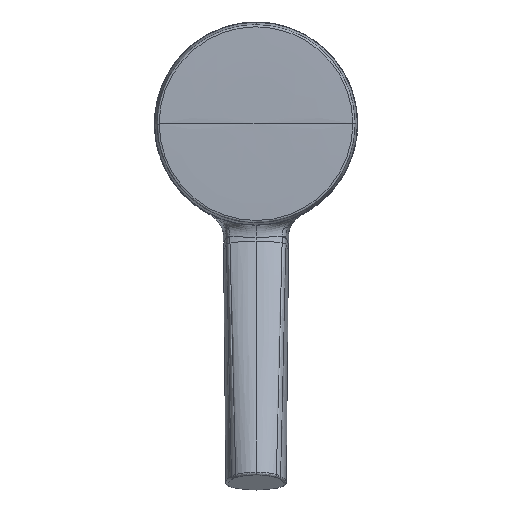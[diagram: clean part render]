
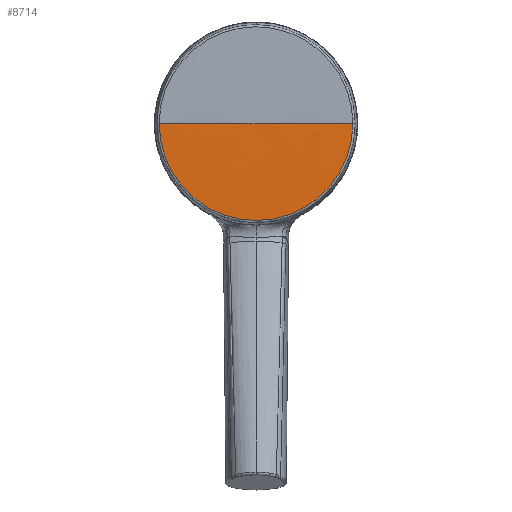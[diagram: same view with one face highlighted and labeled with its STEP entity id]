
A CAD part, top view. The second image highlights one B-rep face of the part: STEP entity #8714.
In plain terms, the highlighted free-form (B-spline) face has degree [3, 3] with [4, 4] control points.
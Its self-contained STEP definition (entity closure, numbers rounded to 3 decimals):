
#405 = CARTESIAN_POINT ( 'NONE',  ( 0., 0., 4.86 ) ) ;
#533 = CARTESIAN_POINT ( 'NONE',  ( 28.668, 0., 4.976 ) ) ;
#671 = CARTESIAN_POINT ( 'NONE',  ( -28.668, 0., 4.976 ) ) ;
#866 = EDGE_LOOP ( 'NONE', ( #8276, #9199, #11039, #8711 ) ) ;
#1510 = AXIS2_PLACEMENT_3D ( 'NONE', #10581, #10715, #8410 ) ;
#1589 = CARTESIAN_POINT ( 'NONE',  ( 0., 0., 4.86 ) ) ;
#1652 = CARTESIAN_POINT ( 'NONE',  ( 0., 0., 4.86 ) ) ;
#2416 = EDGE_CURVE ( 'NONE', #3711, #12362, #7768, .T. ) ;
#3324 = CARTESIAN_POINT ( 'NONE',  ( 43.006, 0., 4.676 ) ) ;
#3435 = FACE_OUTER_BOUND ( 'NONE', #866, .T. ) ;
#3494 = CARTESIAN_POINT ( 'NONE',  ( 14.333, 0., 4.86 ) ) ;
#3566 = CARTESIAN_POINT ( 'NONE',  ( 14.333, 0., 4.86 ) ) ;
#3711 = VERTEX_POINT ( 'NONE', #3324 ) ;
#4182 = CARTESIAN_POINT ( 'NONE',  ( -43.006, 0., 4.676 ) ) ;
#4459 = CARTESIAN_POINT ( 'NONE',  ( 43.006, 0., 4.676 ) ) ;
#4587 = CARTESIAN_POINT ( 'NONE',  ( 14.333, -28.667, 4.86 ) ) ;
#4873 = B_SPLINE_CURVE_WITH_KNOTS ( 'NONE', 3,
 ( #6603, #671, #9559, #1589 ),
 .UNSPECIFIED., .F., .F.,
 ( 4, 4 ),
 ( 0.01, 1. ),
 .UNSPECIFIED. ) ;
#5065 = EDGE_CURVE ( 'NONE', #3711, #7420, #7445, .T. ) ;
#5322 = CARTESIAN_POINT ( 'NONE',  ( 0., 0., 4.86 ) ) ;
#5556 = DIRECTION ( 'NONE',  ( 0., 0., -1. ) ) ;
#5563 = CARTESIAN_POINT ( 'NONE',  ( -14.333, -28.667, 4.86 ) ) ;
#6318 = VERTEX_POINT ( 'NONE', #4182 ) ;
#6364 = CARTESIAN_POINT ( 'NONE',  ( 28.668, 0., 4.976 ) ) ;
#6535 = CARTESIAN_POINT ( 'NONE',  ( -28.668, 0., 4.976 ) ) ;
#6603 = CARTESIAN_POINT ( 'NONE',  ( -43.006, 0., 4.676 ) ) ;
#7393 = CARTESIAN_POINT ( 'NONE',  ( -28.668, -57.335, 4.976 ) ) ;
#7420 = VERTEX_POINT ( 'NONE', #5322 ) ;
#7445 = B_SPLINE_CURVE_WITH_KNOTS ( 'NONE', 3,
 ( #11601, #6364, #3566, #8325 ),
 .UNSPECIFIED., .F., .F.,
 ( 4, 4 ),
 ( 0.01, 1. ),
 .UNSPECIFIED. ) ;
#7768 = CIRCLE ( 'NONE', #9447, 43.006 ) ;
#7939 =( BOUNDED_SURFACE ( )  B_SPLINE_SURFACE ( 3, 3, ( 
 ( #10420, #8376, #9371, #4459 ),
 ( #6535, #7393, #10611, #533 ),
 ( #11590, #5563, #4587, #3494 ),
 ( #12444, #405, #1652, #12387 ) ),
 .UNSPECIFIED., .F., .F., .T. ) 
 B_SPLINE_SURFACE_WITH_KNOTS ( ( 4, 4 ),
 ( 4, 4 ),
 ( 0.01, 1. ),
 ( 0., 1. ),
 .UNSPECIFIED. ) 
 GEOMETRIC_REPRESENTATION_ITEM ( )  RATIONAL_B_SPLINE_SURFACE ( (
 ( 1., 0.333, 0.333, 1.),
 ( 1., 0.333, 0.333, 1.),
 ( 1., 0.333, 0.333, 1.),
 ( 1., 0.333, 0.333, 1.) ) ) 
 REPRESENTATION_ITEM ( '' )  SURFACE ( )  );
#8074 = CARTESIAN_POINT ( 'NONE',  ( -43.006, -0.156, 4.676 ) ) ;
#8276 = ORIENTED_EDGE ( 'NONE', *, *, #11045, .F. ) ;
#8325 = CARTESIAN_POINT ( 'NONE',  ( 0., 0., 4.86 ) ) ;
#8376 = CARTESIAN_POINT ( 'NONE',  ( -43.006, -86.013, 4.676 ) ) ;
#8410 = DIRECTION ( 'NONE',  ( 1., 0., 0. ) ) ;
#8688 = CARTESIAN_POINT ( 'NONE',  ( 0., 0., 4.676 ) ) ;
#8711 = ORIENTED_EDGE ( 'NONE', *, *, #5065, .T. ) ;
#8714 = ADVANCED_FACE ( 'NONE', ( #3435 ), #7939, .F. ) ;
#9199 = ORIENTED_EDGE ( 'NONE', *, *, #11287, .F. ) ;
#9371 = CARTESIAN_POINT ( 'NONE',  ( 43.006, -86.013, 4.676 ) ) ;
#9447 = AXIS2_PLACEMENT_3D ( 'NONE', #8688, #5556, #10412 ) ;
#9559 = CARTESIAN_POINT ( 'NONE',  ( -14.333, 0., 4.86 ) ) ;
#9859 = CIRCLE ( 'NONE', #1510, 43.006 ) ;
#10412 = DIRECTION ( 'NONE',  ( 1., 0., 0. ) ) ;
#10420 = CARTESIAN_POINT ( 'NONE',  ( -43.006, 0., 4.676 ) ) ;
#10581 = CARTESIAN_POINT ( 'NONE',  ( 0., 0., 4.676 ) ) ;
#10611 = CARTESIAN_POINT ( 'NONE',  ( 28.668, -57.335, 4.976 ) ) ;
#10715 = DIRECTION ( 'NONE',  ( 0., 0., -1. ) ) ;
#11039 = ORIENTED_EDGE ( 'NONE', *, *, #2416, .F. ) ;
#11045 = EDGE_CURVE ( 'NONE', #6318, #7420, #4873, .T. ) ;
#11287 = EDGE_CURVE ( 'NONE', #12362, #6318, #9859, .T. ) ;
#11590 = CARTESIAN_POINT ( 'NONE',  ( -14.333, 0., 4.86 ) ) ;
#11601 = CARTESIAN_POINT ( 'NONE',  ( 43.006, 0., 4.676 ) ) ;
#12362 = VERTEX_POINT ( 'NONE', #8074 ) ;
#12387 = CARTESIAN_POINT ( 'NONE',  ( 0., 0., 4.86 ) ) ;
#12444 = CARTESIAN_POINT ( 'NONE',  ( 0., 0., 4.86 ) ) ;
